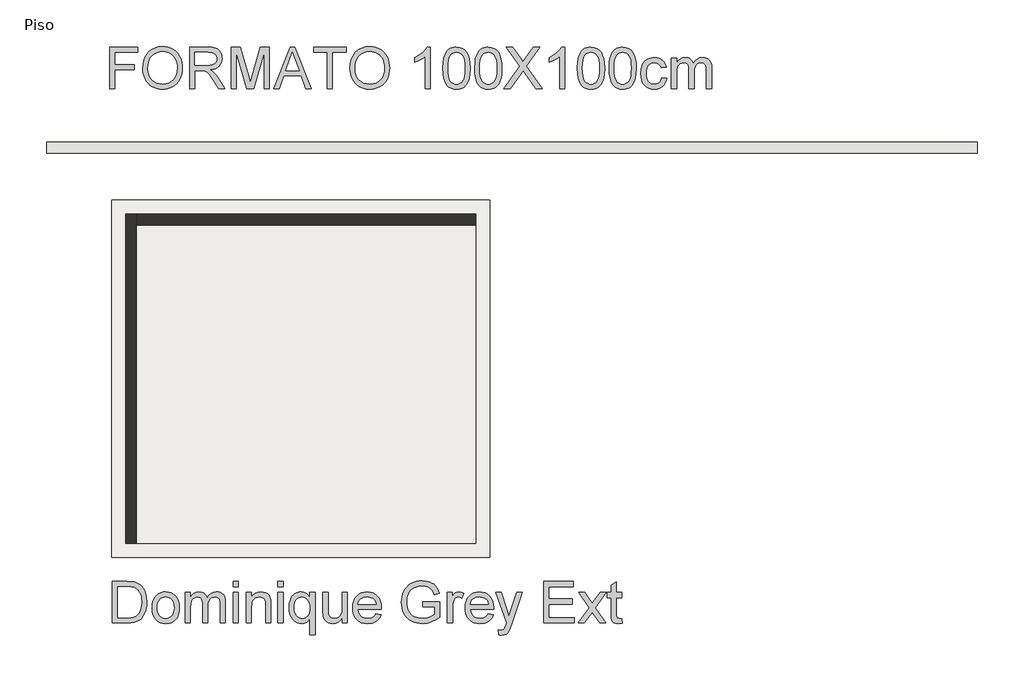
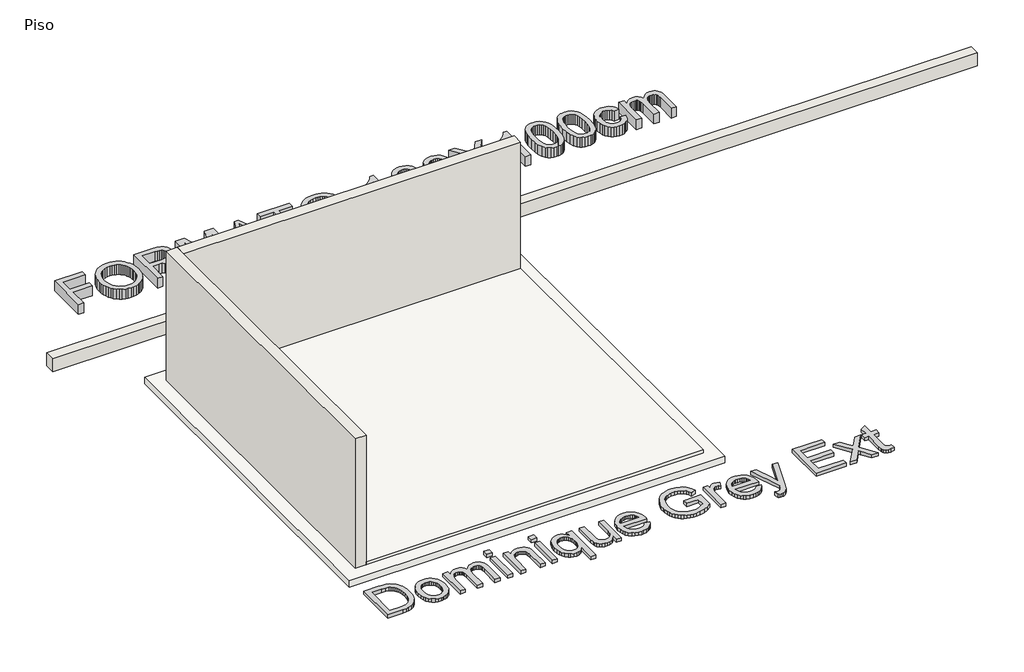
# One storey: 3 walls, 2 proxies, 2 slabs.
"""IFC4 building model written with IfcOpenShell, lengths in millimetres."""

from ifc_helpers import new_model, si_unit, frame, origin, origin_with_axes, place, context, project, spatial, polyline, outline, extrude, faceted_brep, element, save

model = new_model("IFC4")

# Units and contexts
model_context = context("Model", 3, world=origin())
ifc_project = project(units=[si_unit("LENGTHUNIT", "METRE", prefix="MILLI")], contexts=[model_context])

# Site, building, storey
site = spatial("IfcSite", under=ifc_project)
building = spatial("IfcBuilding", under=site)
storey = spatial("IfcBuildingStorey", under=building, Name="Piso", Elevation=0.0)

# Proxies
placement = place(None, origin())
element("IfcBuildingElementProxy", 1, Name="600mm Arial", ObjectType="600mm Arial", at=placement, inside=storey, context=model_context, shape_type="SweptSolid", body=[
    extrude(outline(polyline([(92602.0859381, 2702.6380465), (92602.0859381, 3305.3759074), (93007.0504384, 3305.3759074), (93007.0504384, 3230.0336748), (92677.4281707, 3230.0336748), (92677.4281707, 3051.0958724), (92959.961543, 3051.0958724), (92959.961543, 2975.7536397), (92677.4281707, 2975.7536397), (92677.4281707, 2702.6380465), (92602.0859381, 2702.6380465)])), origin_with_axes(), (0.0, 0.0, 1.0), 150.0),
    extrude(outline(polyline([(93082.392671, 2996.0607259), (93087.4142602, 3066.7584483), (93102.4790279, 3129.3443727), (93127.5869741, 3183.8184992), (93143.9071391, 3208.0136381), (93162.7380987, 3230.1808276), (93205.8262774, 3267.1989534), (93254.7453857, 3293.6404718), (93309.4954237, 3309.5053828), (93370.0763912, 3314.7936865), (93410.6261841, 3312.310483), (93449.134232, 3304.8608726), (93485.6005348, 3292.4448553), (93520.0250925, 3275.062431), (93551.4422148, 3253.2378317), (93578.8862117, 3227.495289), (93602.357083, 3197.8348032), (93621.8548287, 3164.2563741), (93637.1771138, 3127.5233569), (93648.1216032, 3088.3991067), (93654.6882968, 3046.8836235), (93656.8771947, 3002.9769074), (93654.5733337, 2958.4907771), (93647.6617507, 2916.4142739), (93636.1424457, 2876.7473978), (93620.0154187, 2839.4901487), (93599.6623474, 2805.6266111), (93575.4649091, 2776.1408692), (93547.423104, 2751.032923), (93515.5369321, 2730.3027726), (93481.0617906, 2714.0791766), (93445.2530769, 2702.4908937), (93408.110791, 2695.537924), (93369.6349328, 2693.2202674), (93328.3769671, 2695.7816458), (93289.3630815, 2703.465781), (93252.5932761, 2716.272673), (93218.0675508, 2734.2023217), (93186.6872166, 2756.56035), (93159.3535844, 2782.6523805), (93136.0666541, 2812.4784132), (93116.8264257, 2846.0384482), (93101.761658, 2881.9851177), (93091.0011097, 2918.9710538), (93084.5447807, 2956.9962565), (93082.392671, 2996.0607259)]), holes=[polyline([(93157.7349036, 2995.3249619), (93161.5010955, 2945.375784), (93172.7996713, 2901.0368065), (93191.6306309, 2862.3080295), (93217.9939744, 2829.1894529), (93250.0410947, 2802.665161), (93285.9233848, 2783.7192383), (93325.6408447, 2772.3516846), (93369.1934744, 2768.5625001), (93413.4910652, 2772.3884728), (93453.6775746, 2783.8663911), (93489.7530028, 2802.9962548), (93521.7173496, 2829.7780641), (93547.8875551, 2863.5956165), (93566.5805589, 2903.8327097), (93577.7963613, 2950.4893437), (93581.5349621, 3003.5655186), (93579.9346754, 3038.0452586), (93575.1338153, 3070.2625243), (93567.1323819, 3100.2173158), (93555.9303752, 3127.9096329), (93541.6519553, 3152.9761924), (93524.4212823, 3175.0537106), (93504.2383563, 3194.1421877), (93481.1031774, 3210.2416235), (93455.7331153, 3223.0209243), (93428.84554, 3232.1489963), (93400.4404514, 3237.6258395), (93370.5178496, 3239.4514539), (93328.4781346, 3235.9335823), (93289.4734461, 3225.3799676), (93253.503784, 3207.7906097), (93220.5691484, 3183.1655086), (93193.0791663, 3150.318245), (93173.4434648, 3108.0623993), (93161.6620439, 3056.3979716), (93157.7349036, 2995.3249619)])]), origin_with_axes(), (0.0, 0.0, 1.0), 150.0),
    extrude(outline(polyline([(93760.4727645, 2702.6380465), (93760.4727645, 3305.3759074), (94020.1974531, 3305.3759074), (94090.0030617, 3301.3108114), (94140.7891711, 3289.1155232), (94160.3880844, 3279.4218327), (94177.9084644, 3266.6011451), (94193.3503112, 3250.6534606), (94206.7136247, 3231.5787792), (94217.4971656, 3210.4025718), (94225.1996949, 3188.1503097), (94229.8212125, 3164.8219926), (94231.3617183, 3140.4176208), (94228.809537, 3109.4603509), (94221.152993, 3081.0414668), (94208.3920863, 3055.1609684), (94190.5268169, 3031.8188558), (94167.3272585, 3011.76009), (94138.563485, 2995.7296321), (94104.2354964, 2983.727482), (94064.3432925, 2975.7536397), (94089.1753272, 2959.5300438), (94107.1647568, 2943.527177), (94138.0300562, 2906.9229184), (94168.233168, 2865.9776524), (94268.738529, 2702.6380465), (94181.1826142, 2702.6380465), (94102.7501728, 2827.5707721), (94046.0963456, 2910.2706446), (94025.0351013, 2934.3853094), (94006.2915137, 2949.3397125), (93970.4598074, 2963.6871103), (93926.7554263, 2966.3358607), (93835.8149971, 2966.3358607), (93835.8149971, 2702.6380465), (93760.4727645, 2702.6380465)]), holes=[polyline([(93835.8149971, 3041.6780933), (94004.4521037, 3041.6780933), (94052.8837684, 3044.3452377), (94090.4629142, 3052.3466711), (94118.7530396, 3066.2158224), (94139.3176431, 3086.4861203), (94151.8440251, 3111.0054553), (94156.0194857, 3137.6217176), (94154.0283244, 3156.8895371), (94148.0548405, 3174.3731289), (94138.099034, 3190.0724931), (94124.1609049, 3203.9876296), (94105.9185565, 3215.3827744), (94083.050092, 3223.5221635), (94055.5555114, 3228.405797), (94023.4348147, 3230.0336748), (93835.8149971, 3230.0336748), (93835.8149971, 3041.6780933)])]), origin_with_axes(), (0.0, 0.0, 1.0), 150.0),
    extrude(outline(polyline([(94363.2106254, 2702.6380465), (94363.2106254, 3305.3759074), (94492.8522405, 3305.3759074), (94616.1662853, 2880.5457794), (94641.0351082, 2791.8126422), (94667.9640702, 2887.9034193), (94789.2179758, 3305.3759074), (94918.8595909, 3305.3759074), (94918.8595909, 2702.6380465), (94843.5173583, 2702.6380465), (94843.5173583, 3230.0336748), (94692.0971291, 2702.6380465), (94589.9730872, 2702.6380465), (94438.552858, 3230.0336748), (94438.552858, 2702.6380465), (94363.2106254, 2702.6380465)])), origin_with_axes(), (0.0, 0.0, 1.0), 150.0),
    extrude(outline(polyline([(94980.5166133, 2702.6380465), (95221.1114382, 3305.3759074), (95285.2700581, 3305.3759074), (95525.864883, 2702.6380465), (95446.2552192, 2702.6380465), (95377.2405569, 2890.9936281), (95128.9937866, 2890.9936281), (95060.1262771, 2702.6380465), (94980.5166133, 2702.6380465)]), holes=[polyline([(95156.6585126, 2966.3358607), (95349.7229837, 2966.3358607), (95295.4236012, 3114.5187283), (95253.1907481, 3230.0336748), (95215.6667846, 3127.4681746), (95156.6585126, 2966.3358607)])]), origin_with_axes(), (0.0, 0.0, 1.0), 150.0),
    extrude(outline(polyline([(95757.0419287, 2702.6380465), (95757.0419287, 3230.0336748), (95559.2685681, 3230.0336748), (95559.2685681, 3305.3759074), (96030.1575219, 3305.3759074), (96030.1575219, 3230.0336748), (95832.3841613, 3230.0336748), (95832.3841613, 2702.6380465), (95757.0419287, 2702.6380465)])), origin_with_axes(), (0.0, 0.0, 1.0), 150.0),
    extrude(outline(polyline([(96086.6641964, 2996.0607259), (96091.6857856, 3066.7584483), (96106.7505533, 3129.3443727), (96131.8584995, 3183.8184992), (96148.1786645, 3208.0136381), (96167.0096242, 3230.1808276), (96210.0978028, 3267.1989534), (96259.0169111, 3293.6404718), (96313.7669491, 3309.5053828), (96374.3479166, 3314.7936865), (96414.8977096, 3312.310483), (96453.4057574, 3304.8608726), (96489.8720602, 3292.4448553), (96524.2966179, 3275.062431), (96555.7137403, 3253.2378317), (96583.1577371, 3227.495289), (96606.6286084, 3197.8348032), (96626.1263541, 3164.2563741), (96641.4486392, 3127.5233569), (96652.3931286, 3088.3991067), (96658.9598222, 3046.8836235), (96661.1487201, 3002.9769074), (96658.8448591, 2958.4907771), (96651.9332761, 2916.4142739), (96640.4139711, 2876.7473978), (96624.2869442, 2839.4901487), (96603.9338728, 2805.6266111), (96579.7364345, 2776.1408692), (96551.6946295, 2751.032923), (96519.8084575, 2730.3027726), (96485.3333161, 2714.0791766), (96449.5246024, 2702.4908937), (96412.3823164, 2695.537924), (96373.9064582, 2693.2202674), (96332.6484925, 2695.7816458), (96293.6346069, 2703.465781), (96256.8648015, 2716.272673), (96222.3390762, 2734.2023217), (96190.958742, 2756.56035), (96163.6251098, 2782.6523805), (96140.3381795, 2812.4784132), (96121.0979512, 2846.0384482), (96106.0331835, 2881.9851177), (96095.2726351, 2918.9710538), (96088.8163061, 2956.9962565), (96086.6641964, 2996.0607259)]), holes=[polyline([(96162.006429, 2995.3249619), (96165.7726209, 2945.375784), (96177.0711967, 2901.0368065), (96195.9021564, 2862.3080295), (96222.2654998, 2829.1894529), (96254.3126201, 2802.665161), (96290.1949102, 2783.7192383), (96329.9123701, 2772.3516846), (96373.4649998, 2768.5625001), (96417.7625906, 2772.3884728), (96457.9491, 2783.8663911), (96494.0245282, 2802.9962548), (96525.988875, 2829.7780641), (96552.1590805, 2863.5956165), (96570.8520844, 2903.8327097), (96582.0678867, 2950.4893437), (96585.8064875, 3003.5655186), (96584.2062008, 3038.0452586), (96579.4053407, 3070.2625243), (96571.4039074, 3100.2173158), (96560.2019006, 3127.9096329), (96545.9234807, 3152.9761924), (96528.6928077, 3175.0537106), (96508.5098818, 3194.1421877), (96485.3747028, 3210.2416235), (96460.0046407, 3223.0209243), (96433.1170654, 3232.1489963), (96404.7119768, 3237.6258395), (96374.789375, 3239.4514539), (96332.74966, 3235.9335823), (96293.7449715, 3225.3799676), (96257.7753094, 3207.7906097), (96224.8406738, 3183.1655086), (96197.3506917, 3150.318245), (96177.7149902, 3108.0623993), (96165.9335693, 3056.3979716), (96162.006429, 2995.3249619)])]), origin_with_axes(), (0.0, 0.0, 1.0), 150.0),
    extrude(outline(polyline([(97254.4688019, 2702.6380465), (97179.1265693, 2702.6380465), (97179.1265693, 3172.349778), (97147.6726587, 3146.910738), (97107.7574622, 3121.5084862), (97065.855703, 3099.3068078), (97028.4421041, 3083.4694879), (97028.4421041, 3154.6914422), (97087.615923, 3186.8811168), (97138.880279, 3225.1776325), (97179.2921162, 3265.9021693), (97205.9083785, 3305.3759074), (97254.4688019, 3305.3759074), (97254.4688019, 2702.6380465)])), origin_with_axes(), (0.0, 0.0, 1.0), 150.0),
    extrude(outline(polyline([(97433.4066044, 2999.1509346), (97438.9432284, 3095.6279879), (97445.8640084, 3136.5410643), (97455.5531005, 3172.5705072), (97467.9691178, 3204.0106222), (97483.0706737, 3231.1557149), (97500.8577682, 3254.0057853), (97521.3304012, 3272.5608335), (97544.5575507, 3286.9174283), (97570.6081945, 3297.1721389), (97599.4823325, 3303.3249653), (97631.179965, 3305.3759074), (97677.6066727, 3300.5198651), (97719.1773382, 3285.9517381), (97753.9421867, 3262.2417435), (97779.9514438, 3229.9600984), (97799.5963424, 3189.3827143), (97815.2681153, 3140.7855028), (97825.532023, 3079.0732981), (97828.9533256, 2999.1509346), (97823.4718838, 2903.2257044), (97816.6200817, 2862.4505838), (97807.0275587, 2826.4671261), (97794.7081103, 2795.0132155), (97779.6755323, 2767.8267361), (97761.9298246, 2744.9076878), (97741.4709871, 2726.2560706), (97718.2162465, 2711.8029067), (97692.0828293, 2701.4792182), (97663.0707354, 2695.2850051), (97631.179965, 2693.2202674), (97589.6828759, 2696.8071169), (97552.8946764, 2707.5676653), (97520.8153664, 2725.5019125), (97493.444946, 2750.6098587), (97467.1781715, 2795.9972999), (97448.4161898, 2852.5499596), (97437.1590007, 2920.2678378), (97433.4066044, 2999.1509346)]), holes=[polyline([(97508.748837, 2999.2980874), (97510.9561289, 2933.8012967), (97517.5780048, 2880.7849027), (97528.6144647, 2840.2489053), (97544.0655085, 2812.1933047), (97562.7539139, 2793.1048277), (97583.5024584, 2779.4702012), (97606.3111421, 2771.2894254), (97631.179965, 2768.5625001), (97656.0487878, 2771.2986224), (97678.8574715, 2779.5069894), (97699.6060161, 2793.1876011), (97718.2944214, 2812.3404575), (97733.7454652, 2840.4420434), (97744.7819251, 2880.9688437), (97751.403801, 2933.9208584), (97753.611093, 2999.2980874), (97751.4773774, 3063.0612342), (97745.0762307, 3115.1441277), (97734.4076528, 3155.5467678), (97719.4716438, 3184.2691546), (97701.0959381, 3204.2911322), (97680.1082703, 3218.5925448), (97656.5086403, 3227.1733923), (97630.2970482, 3230.0336748), (97605.556984, 3227.5136831), (97583.1345764, 3219.9537081), (97563.0298254, 3207.3537498), (97545.2427309, 3189.7138081), (97529.2766523, 3158.4438385), (97517.8723104, 3116.2845619), (97511.0297053, 3063.2359782), (97508.748837, 2999.2980874)])]), origin_with_axes(), (0.0, 0.0, 1.0), 150.0),
    extrude(outline(polyline([(97894.8777791, 2999.1509346), (97900.4144031, 3095.6279879), (97907.3351832, 3136.5410643), (97917.0242752, 3172.5705072), (97929.4402925, 3204.0106222), (97944.5418484, 3231.1557149), (97962.3289429, 3254.0057853), (97982.8015759, 3272.5608335), (98006.0287254, 3286.9174283), (98032.0793692, 3297.1721389), (98060.9535073, 3303.3249653), (98092.6511397, 3305.3759074), (98139.0778475, 3300.5198651), (98180.648513, 3285.9517381), (98215.4133615, 3262.2417435), (98241.4226186, 3229.9600984), (98261.0675171, 3189.3827143), (98276.7392901, 3140.7855028), (98287.0031978, 3079.0732981), (98290.4245003, 2999.1509346), (98284.9430586, 2903.2257044), (98278.0912564, 2862.4505838), (98268.4987334, 2826.4671261), (98256.1792851, 2795.0132155), (98241.1467071, 2767.8267361), (98223.4009993, 2744.9076878), (98202.9421619, 2726.2560706), (98179.6874212, 2711.8029067), (98153.554004, 2701.4792182), (98124.5419102, 2695.2850051), (98092.6511397, 2693.2202674), (98051.1540507, 2696.8071169), (98014.3658511, 2707.5676653), (97982.2865412, 2725.5019125), (97954.9161207, 2750.6098587), (97928.6493463, 2795.9972999), (97909.8873645, 2852.5499596), (97898.6301755, 2920.2678378), (97894.8777791, 2999.1509346)]), holes=[polyline([(97970.2200117, 2999.2980874), (97972.4273037, 2933.8012967), (97979.0491796, 2880.7849027), (97990.0856395, 2840.2489053), (98005.5366833, 2812.1933047), (98024.2250886, 2793.1048277), (98044.9736331, 2779.4702012), (98067.7823168, 2771.2894254), (98092.6511397, 2768.5625001), (98117.5199626, 2771.2986224), (98140.3286463, 2779.5069894), (98161.0771908, 2793.1876011), (98179.7655962, 2812.3404575), (98195.21664, 2840.4420434), (98206.2530998, 2880.9688437), (98212.8749757, 2933.9208584), (98215.0822677, 2999.2980874), (98212.9485521, 3063.0612342), (98206.5474054, 3115.1441277), (98195.8788276, 3155.5467678), (98180.9428186, 3184.2691546), (98162.5671129, 3204.2911322), (98141.5794451, 3218.5925448), (98117.9798151, 3227.1733923), (98091.7682229, 3230.0336748), (98067.0281587, 3227.5136831), (98044.6057511, 3219.9537081), (98024.5010001, 3207.3537498), (98006.7139056, 3189.7138081), (97990.747827, 3158.4438385), (97979.3434852, 3116.2845619), (97972.5008801, 3063.2359782), (97970.2200117, 2999.2980874)])]), origin_with_axes(), (0.0, 0.0, 1.0), 150.0),
    extrude(outline(polyline([(98318.6778375, 2702.6380465), (98551.0321057, 3031.0830918), (98356.3489539, 3305.3759074), (98446.7007719, 3305.3759074), (98556.3296064, 3151.0126222), (98582.4860163, 3111.9067662), (98593.2649587, 3090.8271278), (98636.5278814, 3152.0426918), (98744.9794936, 3305.3759074), (98836.6556868, 3305.3759074), (98641.9725349, 3030.200175), (98874.3268031, 2702.6380465), (98783.974985, 2702.6380465), (98629.1702415, 2921.0127989), (98596.9437787, 2966.3358607), (98561.4799544, 2916.5982149), (98410.3540307, 2702.6380465), (98318.6778375, 2702.6380465)])), origin_with_axes(), (0.0, 0.0, 1.0), 150.0),
    extrude(outline(polyline([(99203.9490707, 2702.6380465), (99128.6068381, 2702.6380465), (99128.6068381, 3172.349778), (99097.1529275, 3146.910738), (99057.2377311, 3121.5084862), (99015.3359718, 3099.3068078), (98977.9223729, 3083.4694879), (98977.9223729, 3154.6914422), (99037.0961918, 3186.8811168), (99088.3605479, 3225.1776325), (99128.772385, 3265.9021693), (99155.3886474, 3305.3759074), (99203.9490707, 3305.3759074), (99203.9490707, 2702.6380465)])), origin_with_axes(), (0.0, 0.0, 1.0), 150.0),
    extrude(outline(polyline([(99382.8868732, 2999.1509346), (99388.4234972, 3095.6279879), (99395.3442773, 3136.5410643), (99405.0333693, 3172.5705072), (99417.4493866, 3204.0106222), (99432.5509425, 3231.1557149), (99450.338037, 3254.0057853), (99470.81067, 3272.5608335), (99494.0378195, 3286.9174283), (99520.0884633, 3297.1721389), (99548.9626014, 3303.3249653), (99580.6602338, 3305.3759074), (99627.0869416, 3300.5198651), (99668.657607, 3285.9517381), (99703.4224556, 3262.2417435), (99729.4317126, 3229.9600984), (99749.0766112, 3189.3827143), (99764.7483842, 3140.7855028), (99775.0122919, 3079.0732981), (99778.4335944, 2999.1509346), (99772.9521527, 2903.2257044), (99766.1003505, 2862.4505838), (99756.5078275, 2826.4671261), (99744.1883792, 2795.0132155), (99729.1558012, 2767.8267361), (99711.4100934, 2744.9076878), (99690.951256, 2726.2560706), (99667.6965153, 2711.8029067), (99641.5630981, 2701.4792182), (99612.5510043, 2695.2850051), (99580.6602338, 2693.2202674), (99539.1631447, 2696.8071169), (99502.3749452, 2707.5676653), (99470.2956352, 2725.5019125), (99442.9252148, 2750.6098587), (99416.6584403, 2795.9972999), (99397.8964586, 2852.5499596), (99386.6392695, 2920.2678378), (99382.8868732, 2999.1509346)]), holes=[polyline([(99458.2291058, 2999.2980874), (99460.4363978, 2933.8012967), (99467.0582737, 2880.7849027), (99478.0947335, 2840.2489053), (99493.5457773, 2812.1933047), (99512.2341827, 2793.1048277), (99532.9827272, 2779.4702012), (99555.7914109, 2771.2894254), (99580.6602338, 2768.5625001), (99605.5290567, 2771.2986224), (99628.3377404, 2779.5069894), (99649.0862849, 2793.1876011), (99667.7746903, 2812.3404575), (99683.2257341, 2840.4420434), (99694.2621939, 2880.9688437), (99700.8840698, 2933.9208584), (99703.0913618, 2999.2980874), (99700.9576462, 3063.0612342), (99694.5564995, 3115.1441277), (99683.8879216, 3155.5467678), (99668.9519126, 3184.2691546), (99650.576207, 3204.2911322), (99629.5885392, 3218.5925448), (99605.9889092, 3227.1733923), (99579.777317, 3230.0336748), (99555.0372528, 3227.5136831), (99532.6148452, 3219.9537081), (99512.5100942, 3207.3537498), (99494.7229997, 3189.7138081), (99478.7569211, 3158.4438385), (99467.3525793, 3116.2845619), (99460.5099742, 3063.2359782), (99458.2291058, 2999.2980874)])]), origin_with_axes(), (0.0, 0.0, 1.0), 150.0),
    extrude(outline(polyline([(99844.3580479, 2999.1509346), (99849.894672, 3095.6279879), (99856.815452, 3136.5410643), (99866.5045441, 3172.5705072), (99878.9205614, 3204.0106222), (99894.0221173, 3231.1557149), (99911.8092118, 3254.0057853), (99932.2818448, 3272.5608335), (99955.5089943, 3286.9174283), (99981.559638, 3297.1721389), (100010.4337761, 3303.3249653), (100042.1314085, 3305.3759074), (100088.5581163, 3300.5198651), (100130.1287818, 3285.9517381), (100164.8936303, 3262.2417435), (100190.9028874, 3229.9600984), (100210.5477859, 3189.3827143), (100226.2195589, 3140.7855028), (100236.4834666, 3079.0732981), (100239.9047692, 2999.1509346), (100234.4233274, 2903.2257044), (100227.5715253, 2862.4505838), (100217.9790022, 2826.4671261), (100205.6595539, 2795.0132155), (100190.6269759, 2767.8267361), (100172.8812682, 2744.9076878), (100152.4224307, 2726.2560706), (100129.1676901, 2711.8029067), (100103.0342729, 2701.4792182), (100074.022179, 2695.2850051), (100042.1314085, 2693.2202674), (100000.6343195, 2696.8071169), (99963.84612, 2707.5676653), (99931.76681, 2725.5019125), (99904.3963896, 2750.6098587), (99878.1296151, 2795.9972999), (99859.3676333, 2852.5499596), (99848.1104443, 2920.2678378), (99844.3580479, 2999.1509346)]), holes=[polyline([(99919.7002806, 2999.2980874), (99921.9075725, 2933.8012967), (99928.5294484, 2880.7849027), (99939.5659083, 2840.2489053), (99955.0169521, 2812.1933047), (99973.7053574, 2793.1048277), (99994.453902, 2779.4702012), (100017.2625857, 2771.2894254), (100042.1314085, 2768.5625001), (100067.0002314, 2771.2986224), (100089.8089151, 2779.5069894), (100110.5574597, 2793.1876011), (100129.245865, 2812.3404575), (100144.6969088, 2840.4420434), (100155.7333687, 2880.9688437), (100162.3552446, 2933.9208584), (100164.5625365, 2999.2980874), (100162.428821, 3063.0612342), (100156.0276743, 3115.1441277), (100145.3590964, 3155.5467678), (100130.4230874, 3184.2691546), (100112.0473817, 3204.2911322), (100091.0597139, 3218.5925448), (100067.4600839, 3227.1733923), (100041.2484918, 3230.0336748), (100016.5084276, 3227.5136831), (99994.08602, 3219.9537081), (99973.9812689, 3207.3537498), (99956.1941745, 3189.7138081), (99940.2280959, 3158.4438385), (99928.823754, 3116.2845619), (99921.9811489, 3063.2359782), (99919.7002806, 2999.2980874)])]), origin_with_axes(), (0.0, 0.0, 1.0), 150.0),
    extrude(outline(polyline([(100607.1981531, 2862.7402908), (100682.5403858, 2853.3225117), (100674.3458143, 2817.7713154), (100661.5343238, 2786.3128063), (100644.1059143, 2758.9469844), (100622.0605857, 2735.6738497), (100596.3272402, 2717.1004075), (100567.8347797, 2703.833663), (100536.5832042, 2695.8736163), (100502.5725137, 2693.2202674), (100460.316668, 2696.92208), (100422.4294211, 2708.0275178), (100388.9107728, 2726.5365806), (100359.7607232, 2752.4492687), (100336.1656917, 2785.2781382), (100319.3120978, 2824.5357456), (100309.1999415, 2870.2220909), (100305.8292227, 2922.337174), (100311.5865759, 2989.3836677), (100318.7832674, 3019.5545898), (100328.8586356, 3047.4906288), (100341.8816582, 3072.6307646), (100357.9213132, 3094.4139773), (100376.9776006, 3112.8402667), (100399.0505203, 3127.9096329), (100423.1421924, 3139.6266745), (100448.2547371, 3147.9959899), (100474.3881544, 3153.0175791), (100501.5424441, 3154.6914422), (100534.9691219, 3152.3921797), (100565.2044234, 3145.4943923), (100592.2483486, 3133.99808), (100616.1008974, 3117.9032427), (100636.3573998, 3097.5777624), (100652.6131854, 3073.3895213), (100664.8682544, 3045.3385191), (100673.1226067, 3013.4247561), (100597.7803741, 3004.006977), (100584.1135579, 3036.8772332), (100562.8315845, 3060.440075), (100535.1116762, 3074.6219259), (100502.1310553, 3079.3492096), (100476.531067, 3077.022356), (100453.4418733, 3070.0417951), (100432.8634742, 3058.407527), (100414.7958697, 3042.1195517), (100400.0851884, 3020.8007901), (100389.5775589, 2994.0741631), (100383.2729812, 2961.9396708), (100381.1714553, 2924.3973132), (100383.226996, 2886.289337), (100389.3936179, 2853.7823642), (100399.6713211, 2826.8763948), (100414.0601057, 2805.5714288), (100431.7690252, 2789.3800225), (100452.0071335, 2777.8147322), (100474.7744305, 2770.8755581), (100500.0709161, 2768.5625001), (100539.0848017, 2774.3382474), (100555.9567897, 2781.5579315), (100571.0721412, 2791.6654894), (100584.0077919, 2804.7712854), (100594.3406774, 2820.9856844), (100602.0707978, 2840.3086862), (100607.1981531, 2862.7402908)])), origin_with_axes(), (0.0, 0.0, 1.0), 150.0),
    extrude(outline(polyline([(100748.4648393, 2702.6380465), (100748.4648393, 3145.2736631), (100823.8070719, 3145.2736631), (100823.8070719, 3072.4330281), (100846.4686028, 3105.8918955), (100875.6048568, 3132.1034877), (100910.2225526, 3149.0444536), (100949.3284087, 3154.6914422), (100991.2301679, 3148.934089), (101009.0632476, 3141.7373974), (101024.8177941, 3131.6620293), (101049.9073461, 3104.0156974), (101066.3148831, 3067.1355273), (101093.7772741, 3105.4412401), (101125.102426, 3132.8024635), (101160.2903388, 3149.2191975), (101199.3410126, 3154.6914422), (101229.5027377, 3152.4151724), (101255.9764457, 3145.5863628), (101278.7621368, 3134.2050136), (101297.8598109, 3118.2711247), (101312.9567683, 3097.6007551), (101323.7403092, 3072.0099638), (101330.2104338, 3041.4987508), (101332.367142, 3006.0671161), (101332.367142, 2702.6380465), (101257.0249094, 2702.6380465), (101257.0249094, 2973.6935006), (101255.2774699, 3011.2726464), (101250.0351515, 3036.6013217), (101240.2127022, 3053.9469578), (101224.7248702, 3067.5769857), (101204.8040602, 3076.4061536), (101181.6826768, 3079.3492096), (101160.3317255, 3077.4638144), (101140.8661694, 3071.8076287), (101123.2860086, 3062.3806526), (101107.591243, 3049.182886), (101094.6831835, 3031.8280529), (101085.463141, 3009.9298771), (101079.9311155, 2983.4883587), (101078.087107, 2952.5034976), (101078.087107, 2702.6380465), (101002.7448744, 2702.6380465), (101002.7448744, 2982.0812101), (100998.3854727, 3024.6819451), (100992.9362207, 3041.4021818), (100985.3072678, 3055.0689979), (100975.1951114, 3065.6915905), (100962.296249, 3073.2791567), (100946.6106804, 3077.8316964), (100928.1384057, 3079.3492096), (100899.1125163, 3075.3025076), (100872.3674953, 3063.1624018), (100850.2945756, 3043.2231977), (100835.2849902, 3015.7792008), (100826.6765515, 2977.7034143), (100823.8070719, 2925.8688412), (100823.8070719, 2702.6380465), (100748.4648393, 2702.6380465)])), origin_with_axes(), (0.0, 0.0, 1.0), 150.0),
])
element("IfcBuildingElementProxy", 2, Name="600mm Arial", ObjectType="600mm Arial", at=placement, inside=storey, context=model_context, shape_type="SweptSolid", body=[
    extrude(outline(polyline([(92641.6796287, -5051.3851736), (92641.6796287, -4448.6473127), (92849.6065324, -4448.6473127), (92911.7418014, -4450.8178165), (92957.1752278, -4457.3293278), (93005.2206164, -4474.0679586), (93045.7612122, -4500.4450976), (93068.1008464, -4522.0029826), (93087.4422423, -4546.3567706), (93103.7853999, -4573.5064619), (93117.1303193, -4603.4520563), (93127.4953945, -4635.9176424), (93134.8990197, -4670.6273086), (93140.8219198, -4746.7788816), (93136.812006, -4811.4709305), (93124.7822648, -4868.4006692), (93106.4617414, -4916.8691221), (93083.5794813, -4956.1773133), (93057.2391305, -4987.2081596), (93028.5443349, -5010.8445778), (92995.6005022, -5028.3741548), (92956.5130402, -5041.0844778), (92911.2083725, -5048.8099997), (92859.6129227, -5051.3851736), (92641.6796287, -5051.3851736)]), holes=[polyline([(92717.0218613, -4976.042941), (92850.3422964, -4976.042941), (92905.4878075, -4973.3206142), (92947.3159903, -4965.153634), (92978.8802655, -4952.0202467), (93003.2340536, -4934.3986992), (93029.4088575, -4901.7859603), (93049.0721502, -4859.5715013), (93061.3778029, -4807.5713813), (93065.4796872, -4745.6016592), (93063.4701318, -4701.86049), (93057.4414656, -4663.4903979), (93047.3936886, -4630.4913829), (93033.3268008, -4602.8634451), (93016.3812364, -4579.981185), (92997.6974296, -4561.2192033), (92977.2753803, -4546.5774998), (92955.1150886, -4536.0560748), (92911.7785896, -4527.0061777), (92848.2821572, -4523.9895453), (92717.0218613, -4523.9895453), (92717.0218613, -4976.042941)])]), origin_with_axes(), (0.0, 0.0, 1.0), 50.0),
    extrude(outline(polyline([(93216.1641524, -4830.0673653), (93220.2384455, -4772.7421534), (93232.4613248, -4723.3447985), (93252.8327903, -4681.8753006), (93281.3528419, -4648.3336597), (93310.0660317, -4626.8953364), (93341.7590656, -4611.5822484), (93376.4319436, -4602.3943956), (93414.0846658, -4599.331778), (93455.6507327, -4603.0611817), (93493.2344771, -4614.2493929), (93526.8358988, -4632.8964115), (93556.4549979, -4659.0022376), (93580.6294435, -4691.6839543), (93597.8969047, -4730.0586449), (93608.2573814, -4774.1263094), (93611.7108736, -4823.8869478), (93610.1841633, -4864.2160115), (93605.6040325, -4900.0017326), (93597.9704811, -4931.244111), (93587.2835091, -4957.9431468), (93573.6764738, -4981.0047494), (93557.2827324, -5001.3348282), (93538.1022849, -5018.9333831), (93516.1351313, -5033.8004143), (93492.2365972, -5045.6140248), (93467.2620082, -5054.0523181), (93441.2113644, -5059.115294), (93414.0846658, -5060.8029527), (93371.9115936, -5057.0873445), (93333.9783614, -5045.9405201), (93300.2849691, -5027.3624793), (93270.8314169, -5001.3532223), (93246.9144887, -4968.3542073), (93229.8309685, -4928.8068928), (93219.5808564, -4882.7112788), (93216.1641524, -4830.0673653)]), holes=[polyline([(93291.506385, -4829.9202125), (93293.6860858, -4866.4646902), (93300.2251883, -4898.1071403), (93311.1236924, -4924.8475629), (93326.3815982, -4946.6859578), (93344.9412448, -4963.6499163), (93365.7449716, -4975.7670295), (93388.7927786, -4983.0372974), (93414.0846658, -4985.4607201), (93439.2477943, -4983.0235019), (93462.2036308, -4975.7118472), (93482.9521753, -4963.5257561), (93501.4934279, -4946.4652286), (93516.7513336, -4924.410703), (93527.6498377, -4897.2426176), (93534.1889402, -4864.9609726), (93536.368641, -4827.5657678), (93534.1751446, -4792.1801183), (93527.5946554, -4761.3654027), (93516.6271734, -4735.1216209), (93501.2726987, -4713.4487729), (93482.6624682, -4696.4848144), (93461.9277193, -4684.3677011), (93439.0684518, -4677.0974332), (93414.0846658, -4674.6740106), (93388.7927786, -4677.0882362), (93365.7449716, -4684.3309129), (93344.9412448, -4696.4020409), (93326.3815982, -4713.3016201), (93311.1236924, -4735.0756356), (93300.2251883, -4761.7700729), (93293.6860858, -4793.3849319), (93291.506385, -4829.9202125)])]), origin_with_axes(), (0.0, 0.0, 1.0), 50.0),
    extrude(outline(polyline([(93696.4708853, -5051.3851736), (93696.4708853, -4608.749557), (93771.8131179, -4608.749557), (93771.8131179, -4681.5901921), (93794.4746488, -4648.1313246), (93823.6109028, -4621.9197325), (93858.2285986, -4604.9787666), (93897.3344547, -4599.331778), (93939.2362139, -4605.0891312), (93957.0692936, -4612.2858227), (93972.8238401, -4622.3611908), (93997.9133921, -4650.0075228), (94014.3209291, -4686.8876928), (94041.7833201, -4648.5819801), (94073.108472, -4621.2207567), (94108.2963848, -4604.8040226), (94147.3470586, -4599.331778), (94177.5087837, -4601.6080478), (94203.9824917, -4608.4368573), (94226.7681828, -4619.8182066), (94245.8658569, -4635.7520955), (94260.9628143, -4656.4224651), (94271.7463553, -4682.0132564), (94278.2164798, -4712.5244693), (94280.373188, -4747.956104), (94280.373188, -5051.3851736), (94205.0309554, -5051.3851736), (94205.0309554, -4780.3297196), (94203.283516, -4742.7505738), (94198.0411975, -4717.4218984), (94188.2187483, -4700.0762623), (94172.7309163, -4686.4462344), (94152.8101062, -4677.6170665), (94129.6887228, -4674.6740106), (94108.3377715, -4676.5594058), (94088.8722155, -4682.2155915), (94071.2920546, -4691.6425676), (94055.597289, -4704.8403342), (94042.6892295, -4722.1951673), (94033.469187, -4744.0933431), (94027.9371615, -4770.5348615), (94026.093153, -4801.5197225), (94026.093153, -5051.3851736), (93950.7509204, -5051.3851736), (93950.7509204, -4771.9420101), (93946.3915187, -4729.341275), (93940.9422667, -4712.6210384), (93933.3133138, -4698.9542222), (93923.2011575, -4688.3316296), (93910.302295, -4680.7440635), (93894.6167264, -4676.1915238), (93876.1444517, -4674.6740106), (93847.1185623, -4678.7207125), (93820.3735413, -4690.8608184), (93798.3006216, -4710.8000225), (93783.2910362, -4738.2440193), (93774.6825975, -4776.3198058), (93771.8131179, -4828.154379), (93771.8131179, -5051.3851736), (93696.4708853, -5051.3851736)])), origin_with_axes(), (0.0, 0.0, 1.0), 50.0),
    extrude(outline(polyline([(94393.386537, -4523.9895453), (94393.386537, -4448.6473127), (94468.7287696, -4448.6473127), (94468.7287696, -4523.9895453), (94393.386537, -4523.9895453)])), origin_with_axes(), (0.0, 0.0, 1.0), 50.0),
    extrude(outline(polyline([(94393.386537, -5051.3851736), (94393.386537, -4608.749557), (94468.7287696, -4608.749557), (94468.7287696, -5051.3851736), (94393.386537, -5051.3851736)])), origin_with_axes(), (0.0, 0.0, 1.0), 50.0),
    extrude(outline(polyline([(94581.7421185, -5051.3851736), (94581.7421185, -4608.749557), (94657.0843511, -4608.749557), (94657.0843511, -4670.5537322), (94683.2591551, -4639.3941272), (94714.6946716, -4617.1372665), (94751.3909006, -4603.7831501), (94793.3478421, -4599.331778), (94830.4855295, -4602.9186274), (94864.49622, -4613.6791758), (94892.8599218, -4630.2706537), (94913.0566434, -4651.3502921), (94926.7602477, -4676.8629084), (94935.6445979, -4706.7533205), (94939.6177234, -4779.5939556), (94939.6177234, -5051.3851736), (94864.2754908, -5051.3851736), (94864.2754908, -4789.7474987), (94862.104987, -4750.7887954), (94855.5934757, -4723.0872811), (94843.5821286, -4703.2400475), (94824.9121173, -4687.844186), (94800.9813935, -4677.9665544), (94773.1879088, -4674.6740106), (94750.3102472, -4676.5226176), (94729.0604635, -4682.0684387), (94709.4385575, -4691.3114738), (94691.4445295, -4704.251723), (94676.4119514, -4722.3607142), (94665.6743957, -4747.1099754), (94659.2318623, -4778.4995067), (94657.0843511, -4816.5293079), (94657.0843511, -5051.3851736), (94581.7421185, -5051.3851736)])), origin_with_axes(), (0.0, 0.0, 1.0), 50.0),
    extrude(outline(polyline([(95043.2132932, -4523.9895453), (95043.2132932, -4448.6473127), (95118.5555259, -4448.6473127), (95118.5555259, -4523.9895453), (95043.2132932, -4523.9895453)])), origin_with_axes(), (0.0, 0.0, 1.0), 50.0),
    extrude(outline(polyline([(95043.2132932, -5051.3851736), (95043.2132932, -4608.749557), (95118.5555259, -4608.749557), (95118.5555259, -5051.3851736), (95043.2132932, -5051.3851736)])), origin_with_axes(), (0.0, 0.0, 1.0), 50.0),
    extrude(outline(polyline([(95504.684468, -5220.905197), (95504.684468, -4991.0525264), (95484.1934409, -5018.5333115), (95456.8598086, -5040.937325), (95425.1483806, -5055.8365458), (95391.5239663, -5060.8029527), (95354.3770818, -5056.8804109), (95319.8973418, -5045.1127856), (95288.0847463, -5025.5000767), (95258.9392952, -4998.0422843), (95234.6039012, -4963.7510838), (95217.221477, -4923.6381508), (95206.7920224, -4877.7034852), (95203.3155375, -4825.947087), (95208.8337675, -4762.8553248), (95225.3884573, -4706.6061677), (95237.6665188, -4681.7925272), (95252.4277839, -4660.17946), (95269.6722524, -4641.7669661), (95289.3999244, -4626.5550456), (95310.8750359, -4614.644866), (95333.3618228, -4606.1375949), (95356.8602853, -4601.0332322), (95381.3704232, -4599.331778), (95418.4897165, -4604.6108846), (95451.4151551, -4620.4482045), (95480.1467389, -4646.8437376), (95504.684468, -4683.797484), (95504.684468, -4608.749557), (95580.0267006, -4608.749557), (95580.0267006, -5220.905197), (95504.684468, -5220.905197)]), holes=[polyline([(95278.6577702, -4830.0673653), (95280.7776902, -4866.4876828), (95287.1374501, -4898.051958), (95297.7370501, -4924.7601909), (95312.5764901, -4946.6123814), (95330.3773802, -4963.6085296), (95349.8613303, -4975.7486354), (95371.0283406, -4983.0326989), (95393.878411, -4985.4607201), (95415.7535942, -4983.1522606), (95436.0560818, -4976.226882), (95454.7858739, -4964.6845844), (95471.9429704, -4948.5253678), (95486.2673756, -4927.6480645), (95496.4990936, -4901.9515072), (95502.6381244, -4871.4356957), (95504.684468, -4836.10063), (95502.5277598, -4798.4157182), (95496.0576352, -4765.7064103), (95485.2740942, -4737.9727064), (95470.1771368, -4715.2146064), (95452.1739117, -4697.4780957), (95432.6715674, -4684.8091595), (95411.670104, -4677.2077978), (95389.1695215, -4674.6740106), (95366.9448505, -4677.0330539), (95346.476816, -4684.1101837), (95327.765418, -4695.9054002), (95310.8106565, -4712.4187033), (95296.7437687, -4733.9260044), (95286.6959918, -4760.7032151), (95280.6673256, -4792.7503354), (95278.6577702, -4830.0673653)])]), origin_with_axes(), (0.0, 0.0, 1.0), 50.0),
    extrude(outline(polyline([(95975.5734218, -5051.3851736), (95975.5734218, -4975.307177), (95948.313366, -5012.7115789), (95916.5651498, -5039.4290088), (95880.3287733, -5055.4594667), (95839.6042364, -5060.8029527), (95802.9080074, -5057.0505563), (95768.7501641, -5045.7933673), (95740.0921567, -5028.8707955), (95719.8954352, -5008.122251), (95706.3021955, -4982.9223343), (95697.4546335, -4952.6456461), (95693.0400495, -4882.6009142), (95693.0400495, -4608.749557), (95768.3822821, -4608.749557), (95768.3822821, -4847.1370899), (95769.5227163, -4894.8145965), (95772.9440189, -4923.9508505), (95783.9252964, -4949.5738315), (95802.7424605, -4969.0531831), (95828.1447123, -4981.3588358), (95858.8812529, -4985.4607201), (95891.3836272, -4981.2668653), (95921.7890741, -4968.6853011), (95946.8602321, -4948.8748557), (95963.3597396, -4922.9943573), (95972.5200013, -4887.5489271), (95975.5734218, -4839.043686), (95975.5734218, -4608.749557), (96050.9156544, -4608.749557), (96050.9156544, -5051.3851736), (95975.5734218, -5051.3851736)])), origin_with_axes(), (0.0, 0.0, 1.0), 50.0),
    extrude(outline(polyline([(96464.415017, -4919.5362666), (96538.2857216, -4928.9540456), (96526.9595547, -4958.5409551), (96511.6694593, -4984.6145915), (96492.4154354, -5007.1749549), (96469.1974829, -5026.2220452), (96442.2547253, -5041.3511922), (96411.8262858, -5052.1577258), (96377.9121644, -5058.641646), (96340.512361, -5060.8029527), (96293.7637565, -5057.073549), (96252.1103176, -5045.8853378), (96215.5520443, -5027.2383192), (96184.0889367, -5001.1324931), (96158.7878525, -4968.2944265), (96140.7156495, -4929.4506863), (96129.8723276, -4884.6012726), (96126.257887, -4833.7461853), (96129.9091158, -4781.1666511), (96140.8628023, -4734.8227168), (96159.1189463, -4694.7143823), (96184.6775479, -4660.8416475), (96216.0578821, -4633.9310796), (96251.7792238, -4614.7092453), (96291.8415731, -4603.1761448), (96336.2449299, -4599.331778), (96379.2181455, -4603.1669478), (96418.0802797, -4614.6724571), (96452.8313327, -4633.8483061), (96483.4713044, -4660.6944947), (96508.4826815, -4694.4936531), (96526.3479509, -4734.5284112), (96537.0671125, -4780.7987691), (96540.6401664, -4833.3047269), (96540.198708, -4853.611813), (96201.6001197, -4853.611813), (96205.9641198, -4883.6769691), (96214.6415364, -4910.0081229), (96227.6323693, -4932.6052744), (96244.9366187, -4951.4684237), (96265.5977912, -4966.3400534), (96288.6593938, -4976.962646), (96314.1214264, -4983.3362016), (96341.983889, -4985.4607201), (96382.0830265, -4981.5243827), (96415.8545936, -4969.7153707), (96443.2985905, -4949.29792), (96464.415017, -4919.5362666)]), holes=[polyline([(96201.6001197, -4778.2695804), (96465.2979338, -4778.2695804), (96455.1076025, -4738.4647485), (96446.342814, -4722.8113696), (96435.1316102, -4709.9906821), (96414.5854008, -4694.5396383), (96391.2065, -4683.5031784), (96364.9949078, -4676.8813025), (96335.9506243, -4674.6740106), (96309.4585221, -4676.4352456), (96285.1645149, -4681.7189508), (96263.0686025, -4690.525126), (96243.1707851, -4702.8537714), (96226.4735411, -4718.1346698), (96213.9793488, -4735.7976041), (96205.6882083, -4755.8425743), (96201.6001197, -4778.2695804)])]), origin_with_axes(), (0.0, 0.0, 1.0), 50.0),
    extrude(outline(polyline([(97143.3780273, -4815.9406967), (97143.3780273, -4740.5984641), (97388.2402833, -4740.5984641), (97388.2402833, -4965.8893979), (97328.7353706, -5007.2761224), (97267.3542597, -5036.9641994), (97204.2441034, -5054.8432644), (97139.5520546, -5060.8029527), (97096.2753364, -5058.4347124), (97055.0311662, -5051.3299913), (97015.819544, -5039.4887896), (96978.6404699, -5022.9111072), (96944.6941588, -5001.8452644), (96915.1808257, -4976.5395817), (96890.1004707, -4946.994059), (96869.4530937, -4913.2086962), (96853.3260667, -4876.2641469), (96841.8067618, -4837.2410642), (96834.8951788, -4796.1394483), (96832.5913178, -4752.9592991), (96834.8859817, -4709.7745514), (96841.7699736, -4668.0705287), (96853.2432933, -4627.8472311), (96869.3059409, -4589.1046585), (96889.6728079, -4553.5442651), (96914.0587856, -4522.8675053), (96942.4638742, -4497.0743789), (96974.8880735, -4476.164886), (97010.6278093, -4460.0056693), (97048.9795073, -4448.4633717), (97089.9431675, -4441.5379932), (97133.5187898, -4439.2295336), (97195.5804824, -4444.5822167), (97251.3881811, -4460.6402658), (97276.3075877, -4472.3940955), (97298.385106, -4486.2448526), (97317.6207358, -4502.1925371), (97334.0144772, -4520.237149), (97360.3732222, -4564.2542297), (97379.5582682, -4619.9331697), (97310.1021475, -4639.5044918), (97294.5959214, -4599.7916304), (97275.7419692, -4569.8276419), (97250.7995699, -4547.2396874), (97217.0280027, -4529.6549281), (97176.7633184, -4518.3425567), (97132.3415675, -4514.5717663), (97080.3414474, -4518.6368623), (97035.8829083, -4530.8321504), (96999.131497, -4549.6309204), (96970.2527604, -4573.5064619), (96948.0878702, -4601.2263702), (96931.4779981, -4631.5582407), (96913.8196623, -4688.4327972), (96907.9335504, -4749.8690904), (96909.7039825, -4787.4896229), (96915.0152788, -4821.9187791), (96923.8674393, -4853.156559), (96936.260464, -4881.2029627), (96952.0334046, -4905.9522239), (96971.0253126, -4927.2985767), (96993.236188, -4945.242021), (97018.6660309, -4959.7825568), (97046.1238234, -4971.0167533), (97074.4185473, -4979.0411793), (97103.5502028, -4983.8558349), (97133.5187898, -4985.4607201), (97185.7028509, -4980.6230719), (97236.5993249, -4966.1101271), (97280.8003466, -4946.1157407), (97312.8980507, -4924.8337673), (97312.8980507, -4815.9406967), (97143.3780273, -4815.9406967)])), origin_with_axes(), (0.0, 0.0, 1.0), 50.0),
    extrude(outline(polyline([(97501.2536322, -5051.3851736), (97501.2536322, -4608.749557), (97567.1780858, -4608.749557), (97567.1780858, -4674.2325522), (97591.5318738, -4636.2671303), (97613.9726755, -4613.899905), (97636.4870536, -4602.9738097), (97661.0615709, -4599.331778), (97698.5855344, -4605.1443135), (97736.6981091, -4622.58192), (97711.5349807, -4690.1250544), (97685.047477, -4678.5367715), (97658.5599734, -4674.6740106), (97636.0639893, -4678.3896187), (97615.9592383, -4689.5364432), (97599.7172482, -4707.2683553), (97588.8095471, -4730.7392266), (97579.6492854, -4772.8249269), (97576.5958648, -4818.7365999), (97576.5958648, -5051.3851736), (97501.2536322, -5051.3851736)])), origin_with_axes(), (0.0, 0.0, 1.0), 50.0),
    extrude(outline(polyline([(98093.6907972, -4919.5362666), (98167.5615019, -4928.9540456), (98156.235335, -4958.5409551), (98140.9452395, -4984.6145915), (98121.6912156, -5007.1749549), (98098.4732632, -5026.2220452), (98071.5305056, -5041.3511922), (98041.102066, -5052.1577258), (98007.1879446, -5058.641646), (97969.7881413, -5060.8029527), (97923.0395367, -5057.073549), (97881.3860978, -5045.8853378), (97844.8278246, -5027.2383192), (97813.3647169, -5001.1324931), (97788.0636327, -4968.2944265), (97769.9914297, -4929.4506863), (97759.1481079, -4884.6012726), (97755.5336673, -4833.7461853), (97759.1848961, -4781.1666511), (97770.1385825, -4734.8227168), (97788.3947265, -4694.7143823), (97813.9533281, -4660.8416475), (97845.3336623, -4633.9310796), (97881.055004, -4614.7092453), (97921.1173533, -4603.1761448), (97965.5207101, -4599.331778), (98008.4939257, -4603.1669478), (98047.35606, -4614.6724571), (98082.1071129, -4633.8483061), (98112.7470846, -4660.6944947), (98137.7584617, -4694.4936531), (98155.6237311, -4734.5284112), (98166.3428928, -4780.7987691), (98169.9159467, -4833.3047269), (98169.4744883, -4853.611813), (97830.8758999, -4853.611813), (97835.2399001, -4883.6769691), (97843.9173166, -4910.0081229), (97856.9081496, -4932.6052744), (97874.2123989, -4951.4684237), (97894.8735715, -4966.3400534), (97917.9351741, -4976.962646), (97943.3972066, -4983.3362016), (97971.2596693, -4985.4607201), (98011.3588067, -4981.5243827), (98045.1303739, -4969.7153707), (98072.5743707, -4949.29792), (98093.6907972, -4919.5362666)]), holes=[polyline([(97830.8758999, -4778.2695804), (98094.573714, -4778.2695804), (98084.3833828, -4738.4647485), (98075.6185942, -4722.8113696), (98064.4073904, -4709.9906821), (98043.861181, -4694.5396383), (98020.4822802, -4683.5031784), (97994.2706881, -4676.8813025), (97965.2264045, -4674.6740106), (97938.7343024, -4676.4352456), (97914.4402951, -4681.7189508), (97892.3443828, -4690.525126), (97872.4465654, -4702.8537714), (97855.7493213, -4718.1346698), (97843.255129, -4735.7976041), (97834.9639886, -4755.8425743), (97830.8758999, -4778.2695804)])]), origin_with_axes(), (0.0, 0.0, 1.0), 50.0),
    extrude(outline(polyline([(98245.2581793, -5220.905197), (98235.8404002, -5148.3588676), (98274.1001277, -5154.9807435), (98294.2232728, -5152.9022102), (98309.8582576, -5146.6666104), (98322.0351517, -5136.7154024), (98331.7840245, -5123.4900447), (98352.3854163, -5068.0134398), (98358.2715282, -5049.7664928), (98198.1692839, -4608.749557), (98277.6317948, -4608.749557), (98362.5389593, -4854.4947298), (98392.1166717, -4952.7927989), (98421.6943841, -4865.9726481), (98508.9559934, -4608.749557), (98587.8298932, -4608.749557), (98433.7609136, -5061.9801751), (98393.7353525, -5160.2782442), (98373.2443254, -5191.6585784), (98350.0309715, -5213.4004043), (98323.0652212, -5226.0923331), (98291.3170051, -5230.3229761), (98269.5016027, -5227.9685313), (98245.2581793, -5220.905197)])), origin_with_axes(), (0.0, 0.0, 1.0), 50.0),
    extrude(outline(polyline([(98895.0849355, -5051.3851736), (98895.0849355, -4448.6473127), (99328.3027731, -4448.6473127), (99328.3027731, -4523.9895453), (98970.4271682, -4523.9895453), (98970.4271682, -4702.9273478), (99309.4672149, -4702.9273478), (99309.4672149, -4778.2695804), (98970.4271682, -4778.2695804), (98970.4271682, -4976.042941), (99337.7205521, -4976.042941), (99337.7205521, -5051.3851736), (98895.0849355, -5051.3851736)])), origin_with_axes(), (0.0, 0.0, 1.0), 50.0),
    extrude(outline(polyline([(99394.2272266, -5051.3851736), (99555.2123877, -4828.8901429), (99403.6450057, -4608.749557), (99494.2911293, -4608.749557), (99567.4260699, -4714.6995716), (99601.5655191, -4764.731523), (99631.1432315, -4723.8230451), (99714.4317152, -4608.749557), (99805.0778388, -4608.749557), (99645.8585113, -4828.8901429), (99799.1917269, -5051.3851736), (99708.5456033, -5051.3851736), (99616.2807989, -4917.6232802), (99599.3582271, -4893.1959157), (99484.8733502, -5051.3851736), (99394.2272266, -5051.3851736)])), origin_with_axes(), (0.0, 0.0, 1.0), 50.0),
    extrude(outline(polyline([(100025.2184247, -4988.5509288), (100034.6362038, -5053.5924656), (99978.2766821, -5060.8029527), (99942.113882, -5057.6759557), (99915.1481318, -5048.2949649), (99896.0918444, -5033.8372025), (99883.657433, -5015.4798909), (99876.8148279, -4983.9524039), (99874.5339595, -4929.9841152), (99874.5339595, -4684.0917896), (99818.027285, -4684.0917896), (99818.027285, -4608.749557), (99874.5339595, -4608.749557), (99874.5339595, -4501.1808616), (99949.8761921, -4456.8878694), (99949.8761921, -4608.749557), (100025.2184247, -4608.749557), (100025.2184247, -4684.0917896), (99949.8761921, -4684.0917896), (99949.8761921, -4927.7768232), (99953.8493177, -4966.6251619), (99966.7251875, -4980.3839486), (99977.5961005, -4984.1915272), (99992.4033508, -4985.4607201), (100025.2184247, -4988.5509288)])), origin_with_axes(), (0.0, 0.0, 1.0), 50.0),
])

# Slabs
element("IfcSlab", 3, ObjectType="5cm - Porcelanato Domnique Grey Ext  - Externo 100x100", at=placement, inside=storey, context=model_context, shape_type="SweptSolid", body=[
    extrude(outline(polyline([(97911.3698556, 724.7484576), (97911.3698556, -3895.8515424), (92990.7698556, -3895.8515424), (92990.7698556, 724.7484576), (97911.3698556, 724.7484576)])), origin_with_axes(), (0.0, 0.0, 1.0), 50.0),
])
element("IfcSlab", 4, ObjectType="CO02 - Concreto Estrutural Simples", at=placement, inside=storey, context=model_context, shape_type="SweptSolid", body=[
    extrude(outline(polyline([(98111.3698556, 1083.5484576), (98111.3698556, -4095.8515424), (92631.9698556, -4095.8515424), (92631.9698556, 1083.5484576), (98111.3698556, 1083.5484576)])), frame((0.0, 0.0, -100.0), z_axis=(0.0, 0.0, 1.0), x_axis=(1.0, 0.0, 0.0)), (0.0, 0.0, 1.0), 100.0),
])

# Walls
element("IfcWall", 5, ObjectType="CO01 - Bloco de Concreto 14cm / Pintura Branca Simples", at=placement, inside=storey, context=model_context, shape_type="SweptSolid", body=[
    extrude(outline(polyline([(105186.699165, 1765.7486968), (91686.699165, 1765.7486968), (91686.699165, 1924.5486968), (105186.699165, 1924.5486968), (105186.699165, 1765.7486968)])), origin_with_axes(), (0.0, 0.0, 1.0), 200.0),
])
element("IfcWall", 6, ObjectType="CO01 - Bloco de Concreto 14cm / Pintura Branca Simples", at=placement, inside=storey, context=model_context, shape_type="Brep", body=[
    faceted_brep([(92990.7698556, -3895.8515424, 0.0), (92990.7698556, 724.7484576, 0.0), (92990.7698556, 883.5484576, 0.0), (92990.7698556, 883.5484576, 2000.0), (92990.7698556, 724.7484576, 2000.0), (92990.7698556, -3895.8515424, 2000.0), (92831.9698556, -3895.8515424, 0.0), (92831.9698556, -3895.8515424, 2000.0), (92831.9698556, 883.5484576, 2000.0), (92831.9698556, 883.5484576, 0.0)], [[[0, 1, 2, 3, 4, 5]], [[6, 7, 8, 9]], [[2, 1, 0, 6, 9]], [[5, 4, 3, 8, 7]], [[0, 5, 7, 6]], [[3, 2, 9, 8]]]),
])
element("IfcWall", 7, ObjectType="CO01 - Bloco de Concreto 14cm / Pintura Branca Simples", at=placement, inside=storey, context=model_context, shape_type="SweptSolid", body=[
    extrude(outline(polyline([(97911.3698556, 724.7484576), (92990.7698556, 724.7484576), (92990.7698556, 883.5484576), (97911.3698556, 883.5484576), (97911.3698556, 724.7484576)])), origin_with_axes(), (0.0, 0.0, 1.0), 2000.0),
])

save(model, "model.ifc")
